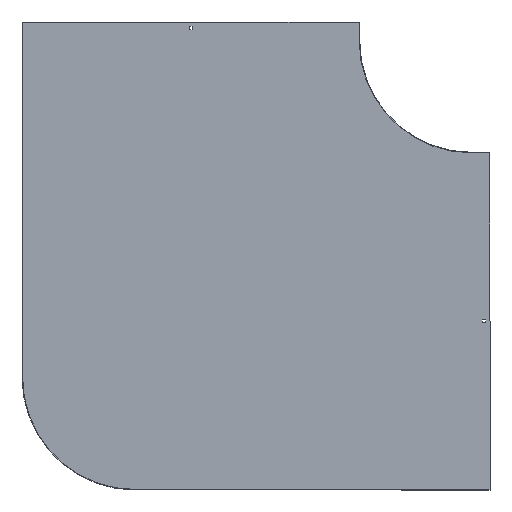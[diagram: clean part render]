
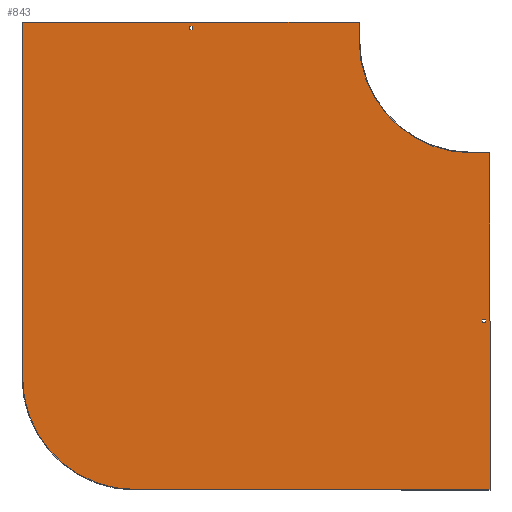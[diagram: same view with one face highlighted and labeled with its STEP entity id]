
A CAD part, front view. The second image highlights one B-rep face of the part: STEP entity #843.
In plain terms, the highlighted planar face has unit normal (0, -1, 0).
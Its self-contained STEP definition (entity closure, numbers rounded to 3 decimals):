
#4 = VECTOR ( 'NONE', #18, 1000. ) ;
#6 = DIRECTION ( 'NONE',  ( 0., 0., -1. ) ) ;
#17 = PLANE ( 'NONE',  #774 ) ;
#18 = DIRECTION ( 'NONE',  ( 0., 0., -1. ) ) ;
#19 = VERTEX_POINT ( 'NONE', #818 ) ;
#21 = ORIENTED_EDGE ( 'NONE', *, *, #147, .T. ) ;
#26 = ORIENTED_EDGE ( 'NONE', *, *, #714, .F. ) ;
#35 = EDGE_CURVE ( 'NONE', #219, #553, #281, .T. ) ;
#37 = CARTESIAN_POINT ( 'NONE',  ( -300., -1.5, 50. ) ) ;
#40 = VERTEX_POINT ( 'NONE', #552 ) ;
#44 = VECTOR ( 'NONE', #652, 1000. ) ;
#46 = EDGE_CURVE ( 'NONE', #860, #654, #477, .T. ) ;
#56 = CARTESIAN_POINT ( 'NONE',  ( -300., -1.5, 0. ) ) ;
#65 = ORIENTED_EDGE ( 'NONE', *, *, #263, .F. ) ;
#80 = VECTOR ( 'NONE', #433, 1000. ) ;
#83 = EDGE_CURVE ( 'NONE', #367, #779, #88, .T. ) ;
#88 = LINE ( 'NONE', #37, #198 ) ;
#92 = ORIENTED_EDGE ( 'NONE', *, *, #412, .T. ) ;
#93 = VECTOR ( 'NONE', #850, 1000. ) ;
#108 = CARTESIAN_POINT ( 'NONE',  ( 0., -1.5, 29. ) ) ;
#109 = CARTESIAN_POINT ( 'NONE',  ( 50., -1.5, -1200. ) ) ;
#122 = VERTEX_POINT ( 'NONE', #413 ) ;
#127 = EDGE_CURVE ( 'NONE', #654, #367, #566, .T. ) ;
#132 = DIRECTION ( 'NONE',  ( 0., 1., 0. ) ) ;
#134 = CIRCLE ( 'NONE', #686, 300. ) ;
#137 = FACE_BOUND ( 'NONE', #157, .T. ) ;
#141 = EDGE_CURVE ( 'NONE', #603, #618, #856, .T. ) ;
#147 = EDGE_CURVE ( 'NONE', #532, #333, #375, .T. ) ;
#157 = EDGE_LOOP ( 'NONE', ( #65, #484, #26, #386 ) ) ;
#167 = CARTESIAN_POINT ( 'NONE',  ( 38., -1.5, -753.25 ) ) ;
#173 = VECTOR ( 'NONE', #340, 1000. ) ;
#176 = VECTOR ( 'NONE', #721, 1000. ) ;
#179 = LINE ( 'NONE', #509, #93 ) ;
#183 = CARTESIAN_POINT ( 'NONE',  ( 0., -1.5, -300. ) ) ;
#198 = VECTOR ( 'NONE', #616, 1000. ) ;
#199 = AXIS2_PLACEMENT_3D ( 'NONE', #530, #132, #545 ) ;
#204 = FACE_OUTER_BOUND ( 'NONE', #415, .T. ) ;
#217 = CARTESIAN_POINT ( 'NONE',  ( -753.25, -1.5, 38. ) ) ;
#219 = VERTEX_POINT ( 'NONE', #109 ) ;
#223 = CARTESIAN_POINT ( 'NONE',  ( -753.25, -1.5, 29. ) ) ;
#224 = VERTEX_POINT ( 'NONE', #361 ) ;
#232 = DIRECTION ( 'NONE',  ( 1., 0., 0. ) ) ;
#239 = CARTESIAN_POINT ( 'NONE',  ( 38., -1.5, -746.75 ) ) ;
#250 = ORIENTED_EDGE ( 'NONE', *, *, #372, .F. ) ;
#253 = CARTESIAN_POINT ( 'NONE',  ( -753.25, -1.5, 0. ) ) ;
#256 = EDGE_CURVE ( 'NONE', #553, #860, #672, .T. ) ;
#259 = VECTOR ( 'NONE', #268, 1000. ) ;
#263 = EDGE_CURVE ( 'NONE', #454, #224, #456, .T. ) ;
#268 = DIRECTION ( 'NONE',  ( 1., 0., 0. ) ) ;
#269 = CARTESIAN_POINT ( 'NONE',  ( -900., -1.5, -1200. ) ) ;
#272 = CARTESIAN_POINT ( 'NONE',  ( 0., -1.5, -746.75 ) ) ;
#281 = LINE ( 'NONE', #496, #173 ) ;
#289 = ORIENTED_EDGE ( 'NONE', *, *, #624, .F. ) ;
#308 = ORIENTED_EDGE ( 'NONE', *, *, #127, .F. ) ;
#318 = LINE ( 'NONE', #108, #80 ) ;
#332 = CARTESIAN_POINT ( 'NONE',  ( -746.75, -1.5, 38. ) ) ;
#333 = VERTEX_POINT ( 'NONE', #815 ) ;
#340 = DIRECTION ( 'NONE',  ( -1., 0., 0. ) ) ;
#361 = CARTESIAN_POINT ( 'NONE',  ( 29., -1.5, -746.75 ) ) ;
#367 = VERTEX_POINT ( 'NONE', #474 ) ;
#372 = EDGE_CURVE ( 'NONE', #19, #219, #179, .T. ) ;
#375 = LINE ( 'NONE', #503, #575 ) ;
#376 = ORIENTED_EDGE ( 'NONE', *, *, #256, .F. ) ;
#386 = ORIENTED_EDGE ( 'NONE', *, *, #857, .F. ) ;
#402 = VERTEX_POINT ( 'NONE', #167 ) ;
#412 = EDGE_CURVE ( 'NONE', #333, #603, #318, .T. ) ;
#413 = CARTESIAN_POINT ( 'NONE',  ( 0., -1.5, -300. ) ) ;
#415 = EDGE_LOOP ( 'NONE', ( #308, #668, #376, #700, #250, #439, #289, #816 ) ) ;
#418 = DIRECTION ( 'NONE',  ( 0., 0., -1. ) ) ;
#433 = DIRECTION ( 'NONE',  ( -1., 0., 0. ) ) ;
#439 = ORIENTED_EDGE ( 'NONE', *, *, #471, .F. ) ;
#454 = VERTEX_POINT ( 'NONE', #239 ) ;
#456 = LINE ( 'NONE', #272, #176 ) ;
#467 = FACE_BOUND ( 'NONE', #546, .T. ) ;
#471 = EDGE_CURVE ( 'NONE', #122, #19, #725, .T. ) ;
#474 = CARTESIAN_POINT ( 'NONE',  ( -300., -1.5, 50. ) ) ;
#477 = LINE ( 'NONE', #821, #629 ) ;
#484 = ORIENTED_EDGE ( 'NONE', *, *, #520, .F. ) ;
#496 = CARTESIAN_POINT ( 'NONE',  ( 50., -1.5, -1200. ) ) ;
#503 = CARTESIAN_POINT ( 'NONE',  ( -746.75, -1.5, 0. ) ) ;
#504 = DIRECTION ( 'NONE',  ( 0., -1., 0. ) ) ;
#507 = DIRECTION ( 'NONE',  ( 0., 0., -1. ) ) ;
#509 = CARTESIAN_POINT ( 'NONE',  ( 50., -1.5, -298.5 ) ) ;
#520 = EDGE_CURVE ( 'NONE', #402, #454, #812, .T. ) ;
#530 = CARTESIAN_POINT ( 'NONE',  ( -900., -1.5, -900. ) ) ;
#532 = VERTEX_POINT ( 'NONE', #332 ) ;
#542 = CARTESIAN_POINT ( 'NONE',  ( 0., -1.5, 38. ) ) ;
#545 = DIRECTION ( 'NONE',  ( 0., 0., -1. ) ) ;
#546 = EDGE_LOOP ( 'NONE', ( #844, #21, #92, #682 ) ) ;
#552 = CARTESIAN_POINT ( 'NONE',  ( 29., -1.5, -753.25 ) ) ;
#553 = VERTEX_POINT ( 'NONE', #269 ) ;
#561 = LINE ( 'NONE', #824, #752 ) ;
#563 = CARTESIAN_POINT ( 'NONE',  ( 0., -1.5, 0. ) ) ;
#566 = LINE ( 'NONE', #831, #710 ) ;
#575 = VECTOR ( 'NONE', #507, 1000. ) ;
#587 = LINE ( 'NONE', #542, #259 ) ;
#603 = VERTEX_POINT ( 'NONE', #223 ) ;
#607 = VECTOR ( 'NONE', #820, 1000. ) ;
#614 = DIRECTION ( 'NONE',  ( 1., 0., 0. ) ) ;
#616 = DIRECTION ( 'NONE',  ( 0., 0., -1. ) ) ;
#618 = VERTEX_POINT ( 'NONE', #217 ) ;
#621 = DIRECTION ( 'NONE',  ( 0., 0., 1. ) ) ;
#624 = EDGE_CURVE ( 'NONE', #779, #122, #134, .T. ) ;
#629 = VECTOR ( 'NONE', #621, 1000. ) ;
#648 = DIRECTION ( 'NONE',  ( 0., -1., 0. ) ) ;
#652 = DIRECTION ( 'NONE',  ( 1., 0., 0. ) ) ;
#653 = LINE ( 'NONE', #732, #4 ) ;
#654 = VERTEX_POINT ( 'NONE', #766 ) ;
#655 = CARTESIAN_POINT ( 'NONE',  ( 0., -1.5, 0. ) ) ;
#660 = CARTESIAN_POINT ( 'NONE',  ( -1200., -1.5, -900. ) ) ;
#668 = ORIENTED_EDGE ( 'NONE', *, *, #46, .F. ) ;
#669 = EDGE_CURVE ( 'NONE', #618, #532, #587, .T. ) ;
#671 = VECTOR ( 'NONE', #706, 1000. ) ;
#672 = CIRCLE ( 'NONE', #199, 300. ) ;
#682 = ORIENTED_EDGE ( 'NONE', *, *, #141, .T. ) ;
#686 = AXIS2_PLACEMENT_3D ( 'NONE', #563, #504, #418 ) ;
#700 = ORIENTED_EDGE ( 'NONE', *, *, #35, .F. ) ;
#706 = DIRECTION ( 'NONE',  ( 0., 0., 1. ) ) ;
#710 = VECTOR ( 'NONE', #232, 1000. ) ;
#714 = EDGE_CURVE ( 'NONE', #40, #402, #561, .T. ) ;
#721 = DIRECTION ( 'NONE',  ( -1., 0., 0. ) ) ;
#725 = LINE ( 'NONE', #183, #44 ) ;
#732 = CARTESIAN_POINT ( 'NONE',  ( 29., -1.5, 0. ) ) ;
#752 = VECTOR ( 'NONE', #614, 1000. ) ;
#766 = CARTESIAN_POINT ( 'NONE',  ( -1200., -1.5, 50. ) ) ;
#774 = AXIS2_PLACEMENT_3D ( 'NONE', #655, #648, #6 ) ;
#779 = VERTEX_POINT ( 'NONE', #56 ) ;
#812 = LINE ( 'NONE', #817, #607 ) ;
#815 = CARTESIAN_POINT ( 'NONE',  ( -746.75, -1.5, 29. ) ) ;
#816 = ORIENTED_EDGE ( 'NONE', *, *, #83, .F. ) ;
#817 = CARTESIAN_POINT ( 'NONE',  ( 38., -1.5, 0. ) ) ;
#818 = CARTESIAN_POINT ( 'NONE',  ( 50., -1.5, -300. ) ) ;
#820 = DIRECTION ( 'NONE',  ( 0., 0., 1. ) ) ;
#821 = CARTESIAN_POINT ( 'NONE',  ( -1200., -1.5, -900. ) ) ;
#824 = CARTESIAN_POINT ( 'NONE',  ( 0., -1.5, -753.25 ) ) ;
#831 = CARTESIAN_POINT ( 'NONE',  ( -1201.5, -1.5, 50. ) ) ;
#843 = ADVANCED_FACE ( 'NONE', ( #137, #204, #467 ), #17, .T. ) ;
#844 = ORIENTED_EDGE ( 'NONE', *, *, #669, .T. ) ;
#850 = DIRECTION ( 'NONE',  ( 0., 0., -1. ) ) ;
#856 = LINE ( 'NONE', #253, #671 ) ;
#857 = EDGE_CURVE ( 'NONE', #224, #40, #653, .T. ) ;
#860 = VERTEX_POINT ( 'NONE', #660 ) ;
